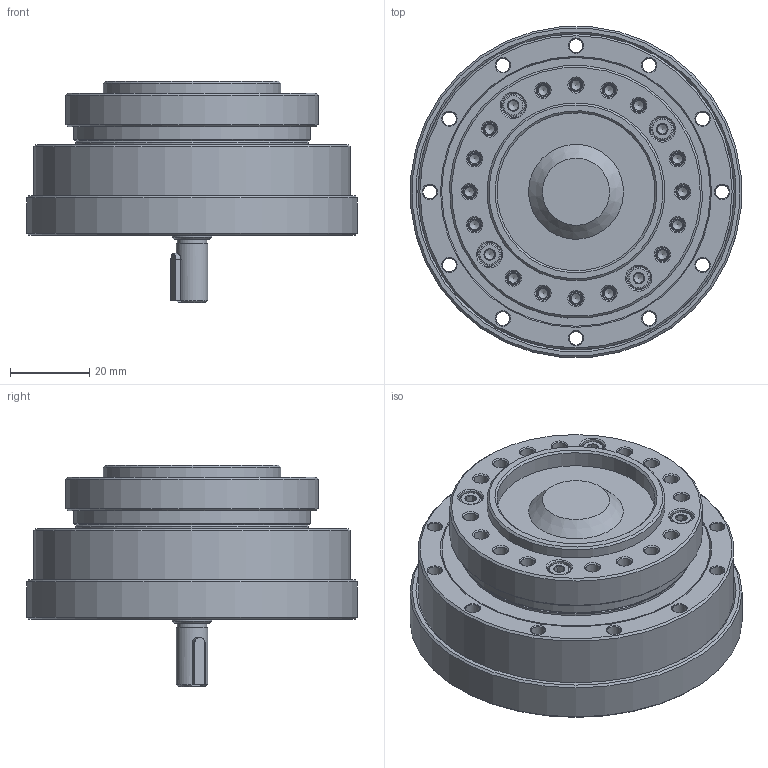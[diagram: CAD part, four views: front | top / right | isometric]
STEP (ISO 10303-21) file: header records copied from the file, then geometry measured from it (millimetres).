
FILE_DESCRIPTION(/* description */ (''),/* implementation_level */ '2;1');
FILE_NAME(/* name */ 'LHT-17-XX-U-IV-有键槽.stp',/* time_stamp */ '2023-07-29T10:58:22+08:00',/* author */ (''),/* organization */ (''),/* preprocessor_version */ 'ST-DEVELOPER v16.7',/* originating_system */ 'SIEMENS PLM Software NX 12.0',/* authorisation */ '');
FILE_SCHEMA (('AUTOMOTIVE_DESIGN { 1 0 10303 214 3 1 1 1 }'));
Length unit declared in the file: millimetre
Products named in the file (20): EB304006-17KC-01; EB304006-17KC-46; TC-59x68x5; SC-10x20x5; C型平键3x3x12; GB-T276_60000_2Z-1994,619I7_2Z; GB-T276_60000_2Z-1994,61900_2Z; LHT-17-XX-IV-带键; LHT-17-00-IV上壳体; LHT-17-00-IV下壳体; GB-T70.1-2000,M3x12; 内六角平圆头螺钉M3x10; 内六角平圆头螺钉M3x8(4.5mm头径); O-47x0.5; O-65x1.5; 柔轮LHT-17; 刚轮LHT-17-III; EB304006-17KC; 交叉轴承LHT-17; LHT-17-XX-U-IV-有键槽
Assembly tree (28 placements, depth 3):
  LHT-17-XX-U-IV-有键槽
    交叉轴承LHT-17
      TC-59x68x5
    刚轮LHT-17-III
    柔轮LHT-17
    EB304006-17KC
      EB304006-17KC-46
      EB304006-17KC-01
    O-65x1.5
    O-47x0.5
    内六角平圆头螺钉M3x8(4.5mm头径)  x4
    内六角平圆头螺钉M3x10  x4
    GB-T70.1-2000,M3x12  x4
    LHT-17-00-IV下壳体
    LHT-17-00-IV上壳体
    LHT-17-XX-IV-带键
    GB-T276_60000_2Z-1994,61900_2Z
    GB-T276_60000_2Z-1994,619I7_2Z
    C型平键3x3x12
    SC-10x20x5
Bounding box: 83.68 x 83.68 x 56 mm (x, y, z)
Volume: 109333.3 mm3; surface area: 95877.2 mm2
Topology: 72 solids, 73 shells, 1208 faces, 2728 edges, 1657 vertices
Faces by surface type: cone 413, plane 341, cylinder 299, torus 113, sphere 38, revolution 2, bspline 2
Full cylindrical faces by diameter (mm): 2.5 x39, 2.874 x12, 3.5 x88, 4.5 x4, 4.8 x4, 5.5 x8, 6 x8, 6.5 x1, 7 x2, 7.5 x1, 8 x1, 9.5 x1, 9.6 x2, 10 x4, 10.334 x2, 11.666 x2, 13 x1, 13.666 x2, 14 x2, 15 x1, 15.6 x2, 17 x2, 18 x2, 19 x1, 20 x2, 22 x3, 23 x1, 28.8 x1, 29 x1, 30 x2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
Entity records: 29204 total; most frequent: CARTESIAN_POINT 8780, DIRECTION 4245, ORIENTED_EDGE 2710, AXIS2_PLACEMENT_3D 2031, EDGE_LOOP 1778, FACE_BOUND 1624, EDGE_CURVE 1355, VERTEX_POINT 1213
